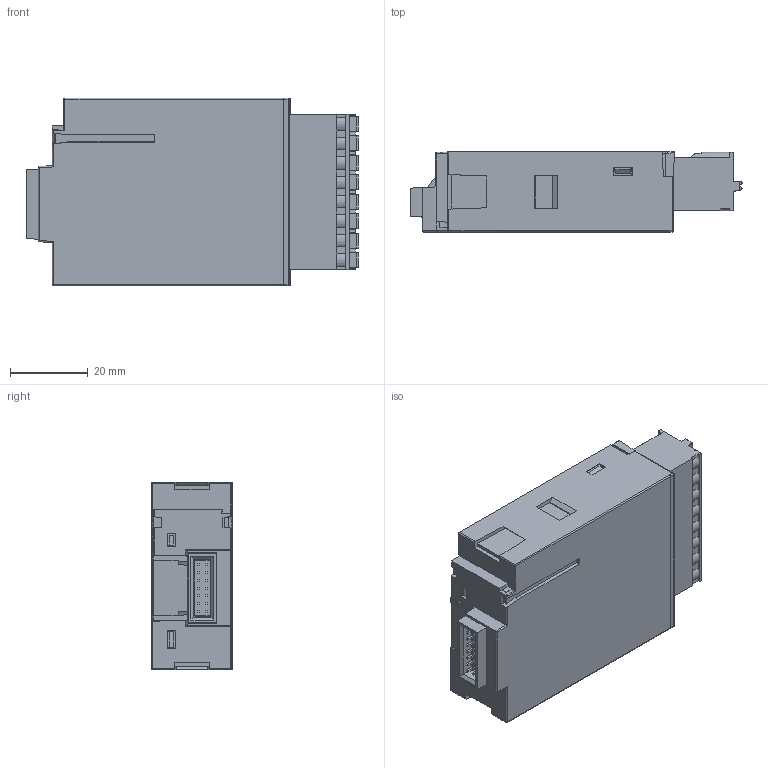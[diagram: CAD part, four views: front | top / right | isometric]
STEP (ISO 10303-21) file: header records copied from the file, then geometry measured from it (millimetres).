
FILE_DESCRIPTION((''),'2;1');
FILE_NAME('DTM-BDR','2021-03-02T',('BRAD.PENG'),(''),'PRO/ENGINEER BY PARAMETRIC TECHNOLOGY CORPORATION, 2012360','PRO/ENGINEER BY PARAMETRIC TECHNOLOGY CORPORATION, 2012360','');
FILE_SCHEMA(('CONFIG_CONTROL_DESIGN','GEOMETRIC_VALIDATION_PROPERTIES_MIM'));
Length unit declared in the file: millimetre
Products named in the file (1): DTM-BDR
Bounding box: 85.25 x 20.62 x 48.2 mm (x, y, z)
Volume: 67721.8 mm3; surface area: 15782.7 mm2
Topology: 1 solids, 1 shells, 966 faces, 2733 edges, 1806 vertices
Faces by surface type: plane 725, cylinder 205, cone 32, sphere 4
Entity records: 42588 total; most frequent: CARTESIAN_POINT 6819, ORIENTED_EDGE 5458, DIRECTION 4923, PRESENTATION_STYLE_ASSIGNMENT 2922, STYLED_ITEM 2730, CURVE_STYLE 2729, EDGE_CURVE 2729, VECTOR 2011
